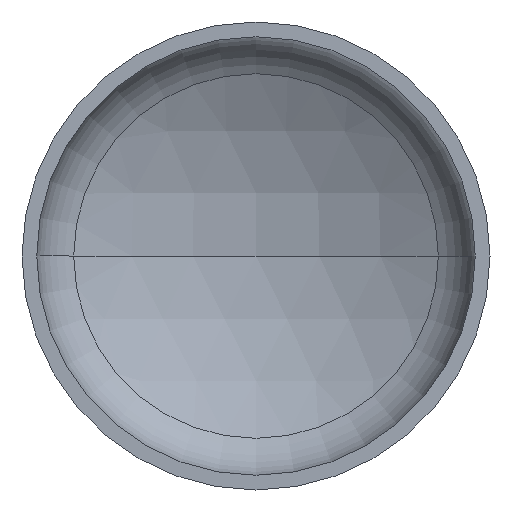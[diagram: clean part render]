
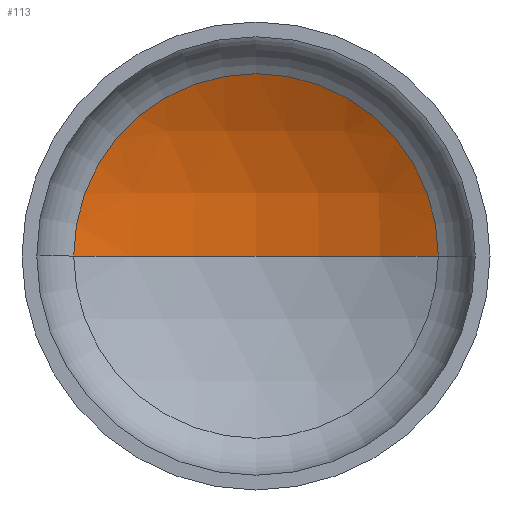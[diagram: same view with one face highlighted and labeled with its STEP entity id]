
A CAD part, front view. The second image highlights one B-rep face of the part: STEP entity #113.
In plain terms, the highlighted spherical face has radius 2080 mm.
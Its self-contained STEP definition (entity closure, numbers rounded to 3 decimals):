
#2 = ORIENTED_EDGE ( 'NONE', *, *, #339, .T. ) ;
#12 = AXIS2_PLACEMENT_3D ( 'NONE', #173, #49, #361 ) ;
#13 = EDGE_LOOP ( 'NONE', ( #271, #104, #2 ) ) ;
#16 = AXIS2_PLACEMENT_3D ( 'NONE', #124, #139, #338 ) ;
#20 = AXIS2_PLACEMENT_3D ( 'NONE', #120, #112, #114 ) ;
#30 = VERTEX_POINT ( 'NONE', #275 ) ;
#36 = AXIS2_PLACEMENT_3D ( 'NONE', #289, #286, #217 ) ;
#49 = DIRECTION ( 'NONE',  ( 0., 0., 1. ) ) ;
#57 = VERTEX_POINT ( 'NONE', #277 ) ;
#81 = VERTEX_POINT ( 'NONE', #180 ) ;
#104 = ORIENTED_EDGE ( 'NONE', *, *, #344, .T. ) ;
#112 = DIRECTION ( 'NONE',  ( 0., -1., 0. ) ) ;
#113 = ADVANCED_FACE ( 'NONE', ( #198 ), #268, .F. ) ;
#114 = DIRECTION ( 'NONE',  ( 1., 0., 0. ) ) ;
#120 = CARTESIAN_POINT ( 'NONE',  ( 0., 449.382, 0. ) ) ;
#124 = CARTESIAN_POINT ( 'NONE',  ( 0., -1367.405, 0. ) ) ;
#139 = DIRECTION ( 'NONE',  ( 0., 0., -1. ) ) ;
#173 = CARTESIAN_POINT ( 'NONE',  ( 0., -1367.405, 0. ) ) ;
#180 = CARTESIAN_POINT ( 'NONE',  ( 1012.762, 449.382, 0. ) ) ;
#198 = FACE_OUTER_BOUND ( 'NONE', #13, .T. ) ;
#217 = DIRECTION ( 'NONE',  ( -1., 0., 0. ) ) ;
#235 = CIRCLE ( 'NONE', #12, 2080. ) ;
#242 = CIRCLE ( 'NONE', #20, 1012.762 ) ;
#268 = SPHERICAL_SURFACE ( 'NONE', #36, 2080. ) ;
#271 = ORIENTED_EDGE ( 'NONE', *, *, #353, .F. ) ;
#275 = CARTESIAN_POINT ( 'NONE',  ( -1012.762, 449.382, 0. ) ) ;
#277 = CARTESIAN_POINT ( 'NONE',  ( 0., 712.595, 0. ) ) ;
#286 = DIRECTION ( 'NONE',  ( 0., 0., -1. ) ) ;
#289 = CARTESIAN_POINT ( 'NONE',  ( 0., -1367.405, 0. ) ) ;
#338 = DIRECTION ( 'NONE',  ( -1., 0., 0. ) ) ;
#339 = EDGE_CURVE ( 'NONE', #81, #30, #242, .T. ) ;
#344 = EDGE_CURVE ( 'NONE', #57, #81, #372, .T. ) ;
#353 = EDGE_CURVE ( 'NONE', #57, #30, #235, .T. ) ;
#361 = DIRECTION ( 'NONE',  ( 1., 0., 0. ) ) ;
#372 = CIRCLE ( 'NONE', #16, 2080. ) ;
